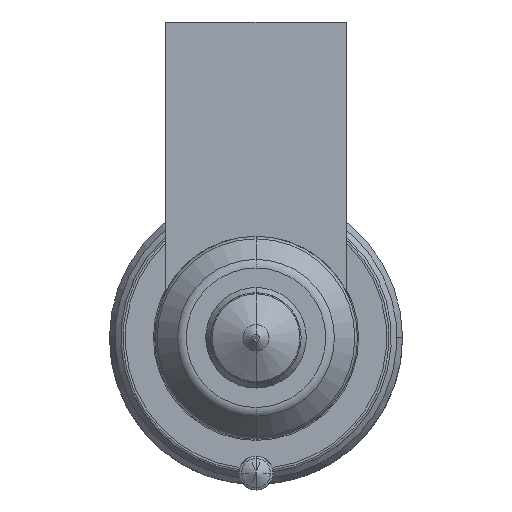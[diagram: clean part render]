
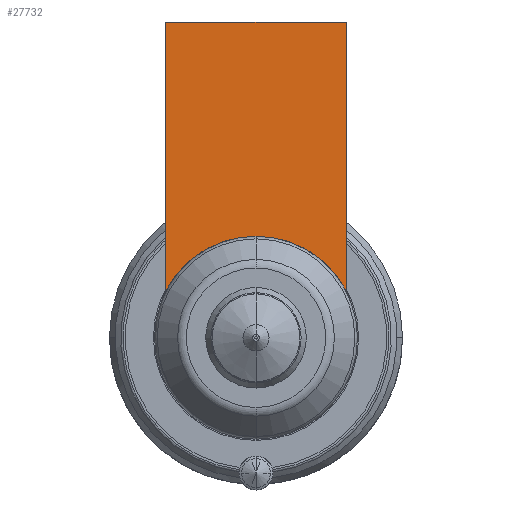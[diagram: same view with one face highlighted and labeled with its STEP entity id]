
A CAD part, front view. The second image highlights one B-rep face of the part: STEP entity #27732.
In plain terms, the highlighted planar face has unit normal (0, -1, 0).
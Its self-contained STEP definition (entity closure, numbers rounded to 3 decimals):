
#26913=CARTESIAN_POINT('',(0.,-54.,0.));
#26914=DIRECTION('',(0.,-1.,0.));
#26915=DIRECTION('',(0.,0.,1.));
#26916=AXIS2_PLACEMENT_3D('',#26913,#26914,#26915);
#26922=DIRECTION('',(1.,0.,0.));
#26923=VECTOR('',#26922,16.);
#26924=CARTESIAN_POINT('',(-8.,-54.,28.));
#26925=LINE('',#26924,#26923);
#26929=CARTESIAN_POINT('',(0.,-54.,0.));
#26930=DIRECTION('',(0.,-1.,0.));
#26931=DIRECTION('',(0.889,0.,0.458));
#26932=AXIS2_PLACEMENT_3D('',#26929,#26930,#26931);
#27084=DIRECTION('',(0.,0.,-1.));
#27085=VECTOR('',#27084,23.877);
#27086=CARTESIAN_POINT('',(8.,-54.,28.));
#27087=LINE('',#27086,#27085);
#27147=DIRECTION('',(0.,0.,-1.));
#27148=VECTOR('',#27147,23.877);
#27149=CARTESIAN_POINT('',(-8.,-54.,28.));
#27150=LINE('',#27149,#27148);
#27690=CARTESIAN_POINT('',(-8.,-54.,28.));
#27691=VERTEX_POINT('',#27690);
#27696=CARTESIAN_POINT('',(8.,-54.,28.));
#27697=VERTEX_POINT('',#27696);
#27702=CARTESIAN_POINT('',(0.,-54.,9.));
#27703=CARTESIAN_POINT('',(-8.,-54.,4.123));
#27704=VERTEX_POINT('',#27702);
#27705=VERTEX_POINT('',#27703);
#27706=CARTESIAN_POINT('',(8.,-54.,4.123));
#27707=VERTEX_POINT('',#27706);
#27715=CARTESIAN_POINT('',(0.,-54.,9.));
#27716=DIRECTION('',(0.,1.,0.));
#27717=DIRECTION('',(0.,0.,-1.));
#27718=AXIS2_PLACEMENT_3D('',#27715,#27716,#27717);
#27719=PLANE('',#27718);
#27721=ORIENTED_EDGE('',*,*,#27720,.T.);
#27723=ORIENTED_EDGE('',*,*,#27722,.F.);
#27725=ORIENTED_EDGE('',*,*,#27724,.T.);
#27727=ORIENTED_EDGE('',*,*,#27726,.T.);
#27729=ORIENTED_EDGE('',*,*,#27728,.T.);
#27730=EDGE_LOOP('',(#27721,#27723,#27725,#27727,#27729));
#27731=FACE_OUTER_BOUND('',#27730,.F.);
#27732=ADVANCED_FACE('',(#27731),#27719,.F.);
#26917=CIRCLE('',#26916,9.);
#26933=CIRCLE('',#26932,9.);
#27720=EDGE_CURVE('',#27704,#27705,#26917,.T.);
#27722=EDGE_CURVE('',#27691,#27705,#27150,.T.);
#27724=EDGE_CURVE('',#27691,#27697,#26925,.T.);
#27726=EDGE_CURVE('',#27697,#27707,#27087,.T.);
#27728=EDGE_CURVE('',#27707,#27704,#26933,.T.);
